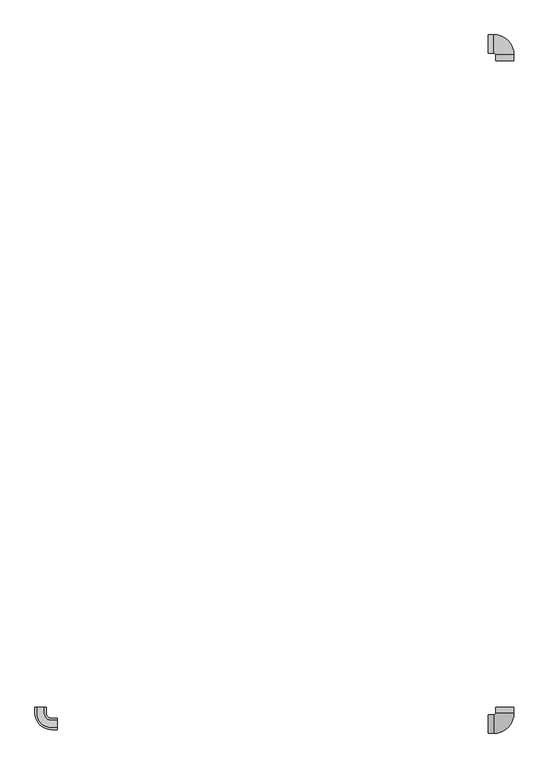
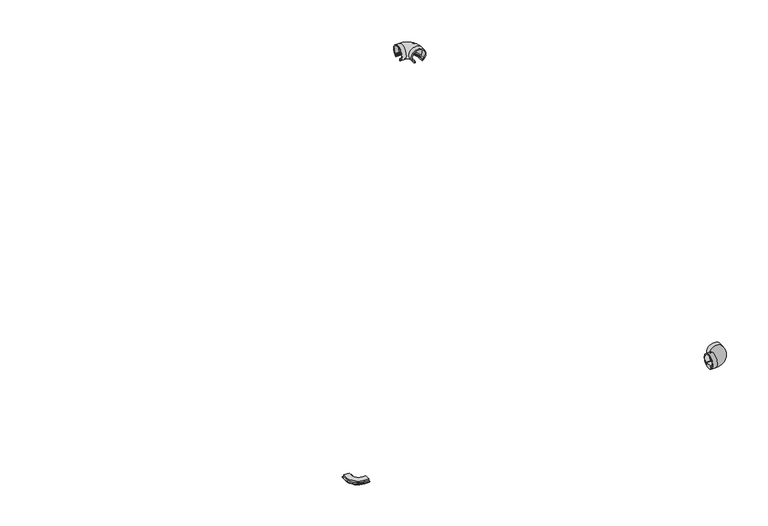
"""IFC4 building model written with IfcOpenShell, lengths in millimetres: light fixture geometry."""

from ifc_helpers import new_model, si_unit, point, frame, origin, place, context, project, spatial, polyline, circle_curve, ellipse_curve, trimmed, source, transform, mapped, element, save
from ifc_brep_helpers import plane_surface, cylinder_surface, revolved_surface, advanced_brep


def light_fixture_90e9eb32(model_context):
    return source(origin(), model_context, "Body", "AdvancedBrep", [
        advanced_brep(
        [(1284.2532014, 1700.5, 52.9333396), (1284.2532014, 1700.5, 57.259212), (1282.3354474, 1700.5, 57.259212), (1282.3354474, 1700.5, 55.8288843), (1280.3854474, 1700.5, 57.2440748), (1280.3854474, 1700.5, 59.244074), (1283.3354474, 1700.5, 59.244074), (1283.3354474, 1700.5, 60.744074), (1278.725222, 1700.5, 60.744074), (1313.2811808, 1700.5, 60.744074), (1308.6709554, 1700.5, 60.744074), (1308.6709554, 1700.5, 59.244074), (1311.6209554, 1700.5, 59.244074), (1311.6209554, 1700.5, 57.2440748), (1309.6709554, 1700.5, 55.8288843), (1309.6709554, 1700.5, 57.259212), (1307.7532014, 1700.5, 57.259212), (1307.7532014, 1700.5, 52.9333396), (1250.5032014, 1734.25, 52.9333396), (1250.5032014, 1757.75, 52.9333396), (1250.5032014, 1757.75, 57.259212), (1250.5032014, 1759.667754, 57.259212), (1250.5032014, 1759.667754, 55.8288843), (1250.5032014, 1761.617754, 57.2440748), (1250.5032014, 1761.617754, 59.244074), (1250.5032014, 1758.667754, 59.244074), (1250.5032014, 1758.667754, 60.744074), (1250.5032014, 1763.2779794, 60.744074), (1250.5032014, 1728.7220206, 60.744074), (1250.5032014, 1733.332246, 60.744074), (1250.5032014, 1733.332246, 59.244074), (1250.5032014, 1730.382246, 59.244074), (1250.5032014, 1730.382246, 57.2440748), (1250.5032014, 1732.332246, 55.8288843), (1250.5032014, 1732.332246, 57.259212), (1250.5032014, 1734.25, 57.259212), (1307.7532014, 1716.0, 52.9333396), (1284.2532014, 1716.0, 52.9333396), (1307.7532014, 1716.0, 57.259212), (1309.6709554, 1716.0, 57.259212), (1266.0032014, 1759.667754, 57.259212), (1266.0032014, 1757.75, 57.259212), (1309.6709554, 1716.0, 55.8288843), (1311.6209554, 1716.0, 57.2440748), (1311.6209554, 1716.0, 59.244074), (1308.6709554, 1716.0, 59.244074), (1266.0032014, 1758.667754, 59.244074), (1266.0032014, 1761.617754, 59.244074), (1308.6709554, 1716.0, 60.744074), (1313.2811808, 1716.0, 60.744074), (1266.0032014, 1763.2779794, 60.744074), (1266.0032014, 1758.667754, 60.744074), (1278.725222, 1716.0, 60.744074), (1283.3354474, 1716.0, 60.744074), (1266.0032014, 1733.332246, 60.744074), (1266.0032014, 1728.7220206, 60.744074), (1283.3354474, 1716.0, 59.244074), (1280.3854474, 1716.0, 59.244074), (1266.0032014, 1730.382246, 59.244074), (1266.0032014, 1733.332246, 59.244074), (1280.3854474, 1716.0, 57.2440748), (1282.3354474, 1716.0, 55.8288843), (1282.3354474, 1716.0, 57.259212), (1284.2532014, 1716.0, 57.259212), (1266.0032014, 1734.25, 57.259212), (1266.0032014, 1732.332246, 57.259212), (1266.0032014, 1734.25, 52.9333396), (1266.0032014, 1757.75, 52.9333396), (1266.0032014, 1759.667754, 55.8288843), (1266.0032014, 1761.617754, 57.2440748), (1266.0032014, 1730.382246, 57.2440748), (1266.0032014, 1732.332246, 55.8288843)],
        [
            (0, 1),
            (1, 2),
            (2, 3),
            (3, 4),
            (4, 5),
            (5, 6),
            (6, 7),
            (7, 8),
            (8, 9, circle_curve(frame((1296.0032014, 1700.5, 75.0), z_axis=(0.0, 1.0, 0.0), x_axis=(-1.0, 0.0, 0.0)), 22.4)),
            (9, 10),
            (10, 11),
            (11, 12),
            (12, 13),
            (13, 14),
            (14, 15),
            (15, 16),
            (16, 17),
            (17, 0, circle_curve(frame((1296.0032014, 1700.5, 75.0), z_axis=(0.0, -1.0, 0.0), x_axis=(-1.0, 0.0, 0.0)), 25.0)),
            (18, 19, circle_curve(frame((1250.5032014, 1746.0, 75.0), z_axis=(-1.0, 0.0, 0.0), x_axis=(0.0, -1.0, 0.0)), 25.0)),
            (19, 20),
            (20, 21),
            (21, 22),
            (22, 23),
            (23, 24),
            (24, 25),
            (25, 26),
            (26, 27),
            (27, 28, circle_curve(frame((1250.5032014, 1746.0, 75.0), z_axis=(1.0, 0.0, 0.0), x_axis=(0.0, -1.0, 0.0)), 22.4)),
            (28, 29),
            (29, 30),
            (30, 31),
            (31, 32),
            (32, 33),
            (33, 34),
            (34, 35),
            (35, 18),
            (17, 36),
            (36, 37, circle_curve(frame((1296.0032014, 1716.0, 75.0), z_axis=(0.0, -1.0, 0.0), x_axis=(-1.0, 0.0, 0.0)), 25.0)),
            (37, 0),
            (16, 38),
            (38, 36),
            (15, 39),
            (39, 40, circle_curve(frame((1266.0032014, 1716.0, 57.259212), z_axis=(0.0, 0.0, 1.0), x_axis=(1.0, 0.0, 0.0)), 43.667754)),
            (40, 21),
            (20, 41),
            (41, 38, circle_curve(frame((1266.0032014, 1716.0, 57.259212), z_axis=(0.0, 0.0, -1.0), x_axis=(1.0, 0.0, 0.0)), 41.75)),
            (14, 42),
            (42, 39),
            (13, 43),
            (43, 42),
            (12, 44),
            (44, 43),
            (11, 45),
            (45, 46, circle_curve(frame((1266.0032014, 1716.0, 59.244074), z_axis=(0.0, 0.0, 1.0), x_axis=(1.0, 0.0, 0.0)), 42.667754)),
            (46, 25),
            (24, 47),
            (47, 44, circle_curve(frame((1266.0032014, 1716.0, 59.244074), z_axis=(0.0, 0.0, -1.0), x_axis=(1.0, 0.0, 0.0)), 45.617754)),
            (10, 48),
            (48, 45),
            (9, 49),
            (49, 50, circle_curve(frame((1266.0032014, 1716.0, 60.744074), z_axis=(0.0, 0.0, 1.0), x_axis=(1.0, 0.0, 0.0)), 47.2779794)),
            (50, 27),
            (26, 51),
            (51, 48, circle_curve(frame((1266.0032014, 1716.0, 60.744074), z_axis=(0.0, 0.0, -1.0), x_axis=(1.0, 0.0, 0.0)), 42.667754)),
            (8, 52),
            (52, 49, circle_curve(frame((1296.0032014, 1716.0, 75.0), z_axis=(0.0, 1.0, 0.0), x_axis=(-1.0, 0.0, 0.0)), 22.4)),
            (7, 53),
            (53, 54, circle_curve(frame((1266.0032014, 1716.0, 60.744074), z_axis=(0.0, 0.0, 1.0), x_axis=(1.0, 0.0, 0.0)), 17.332246)),
            (54, 29),
            (28, 55),
            (55, 52, circle_curve(frame((1266.0032014, 1716.0, 60.744074), z_axis=(0.0, 0.0, -1.0), x_axis=(1.0, 0.0, 0.0)), 12.7220206)),
            (6, 56),
            (56, 53),
            (5, 57),
            (57, 58, circle_curve(frame((1266.0032014, 1716.0, 59.244074), z_axis=(0.0, 0.0, 1.0), x_axis=(1.0, 0.0, 0.0)), 14.382246)),
            (58, 31),
            (30, 59),
            (59, 56, circle_curve(frame((1266.0032014, 1716.0, 59.244074), z_axis=(0.0, 0.0, -1.0), x_axis=(1.0, 0.0, 0.0)), 17.332246)),
            (4, 60),
            (60, 57),
            (3, 61),
            (61, 60),
            (2, 62),
            (62, 61),
            (1, 63),
            (63, 64, circle_curve(frame((1266.0032014, 1716.0, 57.259212), z_axis=(0.0, 0.0, 1.0), x_axis=(1.0, 0.0, 0.0)), 18.25)),
            (64, 35),
            (34, 65),
            (65, 62, circle_curve(frame((1266.0032014, 1716.0, 57.259212), z_axis=(0.0, 0.0, -1.0), x_axis=(1.0, 0.0, 0.0)), 16.332246)),
            (37, 63),
            (66, 37, circle_curve(frame((1266.0032014, 1716.0, 52.9333396), z_axis=(0.0, 0.0, -1.0), x_axis=(1.0, 0.0, 0.0)), 18.25)),
            (36, 67, circle_curve(frame((1266.0032014, 1716.0, 52.9333396), z_axis=(0.0, 0.0, 1.0), x_axis=(1.0, 0.0, 0.0)), 41.75)),
            (67, 66, circle_curve(frame((1266.0032014, 1746.0, 75.0), z_axis=(1.0, 0.0, 0.0), x_axis=(0.0, -1.0, 0.0)), 25.0)),
            (41, 67),
            (42, 68, circle_curve(frame((1266.0032014, 1716.0, 55.8288843), z_axis=(0.0, 0.0, 1.0), x_axis=(1.0, 0.0, 0.0)), 43.667754)),
            (68, 40),
            (43, 69, circle_curve(frame((1266.0032014, 1716.0, 57.2440748), z_axis=(0.0, 0.0, 1.0), x_axis=(1.0, 0.0, 0.0)), 45.617754)),
            (69, 68),
            (47, 69),
            (51, 46),
            (55, 50, circle_curve(frame((1266.0032014, 1746.0, 75.0), z_axis=(-1.0, 0.0, 0.0), x_axis=(0.0, -1.0, 0.0)), 22.4)),
            (59, 54),
            (60, 70, circle_curve(frame((1266.0032014, 1716.0, 57.2440748), z_axis=(0.0, 0.0, 1.0), x_axis=(1.0, 0.0, 0.0)), 14.382246)),
            (70, 58),
            (61, 71, circle_curve(frame((1266.0032014, 1716.0, 55.8288843), z_axis=(0.0, 0.0, 1.0), x_axis=(1.0, 0.0, 0.0)), 16.332246)),
            (71, 70),
            (65, 71),
            (66, 64),
            (67, 19),
            (18, 66),
            (68, 22),
            (69, 23),
            (70, 32),
            (71, 33),
        ],
        [
            plane_surface(frame((1296.0032014, 1700.5, 50.0), z_axis=(0.0, -1.0, 0.0), x_axis=(0.0, 0.0, 1.0))),
            plane_surface(frame((1250.5032014, 1746.0, 50.0), z_axis=(-1.0, 0.0, 0.0), x_axis=(0.0, 0.0, 1.0))),
            cylinder_surface(frame((1296.0032014, 1700.5, 75.0), z_axis=(0.0, -1.0, 0.0), x_axis=(-1.0, 0.0, 0.0)), 25.0),
            plane_surface(frame((1307.7532014, 1700.5, 57.259212), z_axis=(-1.0, 0.0, 0.0), x_axis=(0.0, 1.0, 0.0))),
            plane_surface(frame((1309.6709554, 1700.5, 57.259212), z_axis=(0.0, 0.0, 1.0), x_axis=(0.0, 1.0, 0.0))),
            plane_surface(frame((1309.6709554, 1700.5, 55.8288843), z_axis=(1.0, 0.0, 0.0), x_axis=(0.0, 1.0, 0.0))),
            plane_surface(frame((1311.6209554, 1700.5, 57.2440748), z_axis=(-0.5873593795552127, 0.0, 0.809326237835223), x_axis=(0.0, 1.0, 0.0))),
            plane_surface(frame((1311.6209554, 1700.5, 59.244074), z_axis=(-1.0, 0.0, 0.0), x_axis=(0.0, 1.0, 0.0))),
            plane_surface(frame((1308.6709554, 1700.5, 59.244074), z_axis=(0.0, 0.0, -1.0), x_axis=(0.0, 1.0, 0.0))),
            plane_surface(frame((1308.6709554, 1700.5, 60.744074), z_axis=(-1.0, 0.0, 0.0), x_axis=(0.0, 1.0, 0.0))),
            plane_surface(frame((1313.2811808, 1700.5, 60.744074), z_axis=(0.0, 0.0, 1.0), x_axis=(0.0, 1.0, 0.0))),
            revolved_surface(polyline([(1273.6032014, 1716.0, 75.0), (1273.6032014, 1700.5, 75.0)]), (1296.0032014, 1700.5, 75.0), (0.0, 1.0, 0.0)),
            plane_surface(frame((1283.3354474, 1700.5, 60.744074), z_axis=(0.0, 0.0, 1.0), x_axis=(0.0, 1.0, 0.0))),
            plane_surface(frame((1283.3354474, 1700.5, 59.244074), z_axis=(1.0, 0.0, 0.0), x_axis=(0.0, 1.0, 0.0))),
            plane_surface(frame((1280.3854474, 1700.5, 59.244074), z_axis=(0.0, 0.0, -1.0), x_axis=(0.0, 1.0, 0.0))),
            plane_surface(frame((1280.3854474, 1700.5, 57.2440748), z_axis=(1.0, 0.0, 0.0), x_axis=(0.0, 1.0, 0.0))),
            plane_surface(frame((1282.3354474, 1700.5, 55.8288843), z_axis=(0.5873593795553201, 0.0, 0.8093262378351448), x_axis=(0.0, 1.0, 0.0))),
            plane_surface(frame((1282.3354474, 1700.5, 57.259212), z_axis=(-1.0, 0.0, 0.0), x_axis=(0.0, 1.0, 0.0))),
            plane_surface(frame((1284.2532014, 1700.5, 57.259212), z_axis=(0.0, 0.0, 1.0), x_axis=(0.0, 1.0, 0.0))),
            plane_surface(frame((1284.2532014, 1700.5, 52.9333396), z_axis=(1.0, 0.0, 0.0), x_axis=(0.0, 1.0, 0.0))),
            revolved_surface(trimmed(ellipse_curve(frame((1296.0032014, 1716.0, 75.0), z_axis=(0.0, -1.0, 0.0), x_axis=(-1.0, 0.0, 0.0)), 25.0, 25.0), [point((1307.7532014, 1716.0, 52.9333396))], [point((1284.2532014, 1716.0, 52.9333396))], True, "CARTESIAN"), (1266.0032014, 1716.0, 50.0), (0.0, 0.0, 1.0)),
            revolved_surface(polyline([(1307.7532014, 1716.0, 57.259212), (1307.7532014, 1716.0, 52.9333396)]), (1266.0032014, 1716.0, 50.0), (0.0, 0.0, 1.0)),
            cylinder_surface(frame((1266.0032014, 1716.0, 50.0), z_axis=(0.0, 0.0, 1.0), x_axis=(1.0, 0.0, 0.0)), 43.667754),
            revolved_surface(polyline([(1311.6209554, 1716.0, 57.2440748), (1309.6709554, 1716.0, 55.8288843)]), (1266.0032014, 1716.0, 50.0), (0.0, 0.0, 1.0)),
            revolved_surface(polyline([(1311.6209554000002, 1716.0, 59.244074), (1311.6209554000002, 1716.0, 57.2440748)]), (1266.0032014, 1716.0, 50.0), (0.0, 0.0, 1.0)),
            revolved_surface(polyline([(1308.6709554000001, 1716.0, 60.744074), (1308.6709554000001, 1716.0, 59.244074)]), (1266.0032014, 1716.0, 50.0), (0.0, 0.0, 1.0)),
            revolved_surface(trimmed(ellipse_curve(frame((1296.0032014, 1716.0, 75.0), z_axis=(0.0, 1.0, 0.0), x_axis=(-1.0, 0.0, 0.0)), 22.4, 22.4), [point((1278.725222, 1716.0, 60.744074))], [point((1313.2811808, 1716.0, 60.744074))], True, "CARTESIAN"), (1266.0032014, 1716.0, 50.0), (0.0, 0.0, 1.0)),
            cylinder_surface(frame((1266.0032014, 1716.0, 50.0), z_axis=(0.0, 0.0, 1.0), x_axis=(1.0, 0.0, 0.0)), 17.332246),
            cylinder_surface(frame((1266.0032014, 1716.0, 50.0), z_axis=(0.0, 0.0, 1.0), x_axis=(1.0, 0.0, 0.0)), 14.382246),
            revolved_surface(polyline([(1282.3354474, 1716.0, 55.8288843), (1280.3854474, 1716.0, 57.2440748)]), (1266.0032014, 1716.0, 50.0), (0.0, 0.0, 1.0)),
            revolved_surface(polyline([(1282.3354474, 1716.0, 57.259212), (1282.3354474, 1716.0, 55.8288843)]), (1266.0032014, 1716.0, 50.0), (0.0, 0.0, 1.0)),
            cylinder_surface(frame((1266.0032014, 1716.0, 50.0), z_axis=(0.0, 0.0, 1.0), x_axis=(1.0, 0.0, 0.0)), 18.25),
            cylinder_surface(frame((1266.0032014, 1746.0, 75.0), z_axis=(1.0, 0.0, 0.0), x_axis=(0.0, -1.0, 0.0)), 25.0),
            plane_surface(frame((1266.0032014, 1757.75, 57.259212), z_axis=(0.0, -1.0, 0.0), x_axis=(-1.0, 0.0, 0.0))),
            plane_surface(frame((1266.0032014, 1759.667754, 55.8288843), z_axis=(0.0, 1.0, 0.0), x_axis=(-1.0, 0.0, 0.0))),
            plane_surface(frame((1266.0032014, 1761.617754, 57.2440748), z_axis=(0.0, -0.5873593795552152, 0.8093262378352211), x_axis=(-1.0, 0.0, 0.0))),
            plane_surface(frame((1266.0032014, 1761.617754, 59.244074), z_axis=(0.0, -1.0, 0.0), x_axis=(-1.0, 0.0, 0.0))),
            plane_surface(frame((1266.0032014, 1758.667754, 60.744074), z_axis=(0.0, -1.0, 0.0), x_axis=(-1.0, 0.0, 0.0))),
            revolved_surface(polyline([(1250.5032014, 1723.6, 75.0), (1266.0032014, 1723.6, 75.0)]), (1266.0032014, 1746.0, 75.0), (-1.0, 0.0, 0.0)),
            plane_surface(frame((1266.0032014, 1733.332246, 59.244074), z_axis=(0.0, 1.0, 0.0), x_axis=(-1.0, 0.0, 0.0))),
            plane_surface(frame((1266.0032014, 1730.382246, 57.2440748), z_axis=(0.0, 1.0, 0.0), x_axis=(-1.0, 0.0, 0.0))),
            plane_surface(frame((1266.0032014, 1732.332246, 55.8288843), z_axis=(0.0, 0.5873593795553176, 0.8093262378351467), x_axis=(-1.0, 0.0, 0.0))),
            plane_surface(frame((1266.0032014, 1732.332246, 57.259212), z_axis=(0.0, -1.0, 0.0), x_axis=(-1.0, 0.0, 0.0))),
            plane_surface(frame((1266.0032014, 1734.25, 52.9333396), z_axis=(0.0, 1.0, 0.0), x_axis=(-1.0, 0.0, 0.0))),
        ],
        [
            (0, [[1, 2, 3, 4, 5, 6, 7, 8, 9, 10, 11, 12, 13, 14, 15, 16, 17, 18]]),
            (1, [[19, 20, 21, 22, 23, 24, 25, 26, 27, 28, 29, 30, 31, 32, 33, 34, 35, 36]]),
            (2, [[-18, 37, 38, 39]]),
            (3, [[-17, 40, 41, -37]]),
            (4, [[-16, 42, 43, 44, -21, 45, 46, -40]]),
            (5, [[-15, 47, 48, -42]]),
            (6, [[-14, 49, 50, -47]]),
            (7, [[-13, 51, 52, -49]]),
            (8, [[-12, 53, 54, 55, -25, 56, 57, -51]]),
            (9, [[-11, 58, 59, -53]]),
            (10, [[-10, 60, 61, 62, -27, 63, 64, -58]]),
            (11, [[-9, 65, 66, -60]]),
            (12, [[-8, 67, 68, 69, -29, 70, 71, -65]]),
            (13, [[-7, 72, 73, -67]]),
            (14, [[-6, 74, 75, 76, -31, 77, 78, -72]]),
            (15, [[-5, 79, 80, -74]]),
            (16, [[-4, 81, 82, -79]]),
            (17, [[-3, 83, 84, -81]]),
            (18, [[-2, 85, 86, 87, -35, 88, 89, -83]]),
            (19, [[-1, -39, 90, -85]]),
            (20, [[91, -38, 92, 93]]),
            (21, [[-92, -41, -46, 94]]),
            (22, [[-43, -48, 95, 96]]),
            (23, [[-95, -50, 97, 98]]),
            (24, [[-97, -52, -57, 99]]),
            (25, [[-54, -59, -64, 100]]),
            (26, [[-61, -66, -71, 101]]),
            (27, [[-68, -73, -78, 102]]),
            (28, [[-75, -80, 103, 104]]),
            (29, [[-103, -82, 105, 106]]),
            (30, [[-105, -84, -89, 107]]),
            (31, [[-86, -90, -91, 108]]),
            (32, [[-93, 109, -19, 110]]),
            (33, [[-94, -45, -20, -109]]),
            (34, [[-96, 111, -22, -44]]),
            (35, [[-98, 112, -23, -111]]),
            (36, [[-99, -56, -24, -112]]),
            (37, [[-100, -63, -26, -55]]),
            (38, [[-101, -70, -28, -62]]),
            (39, [[-102, -77, -30, -69]]),
            (40, [[-104, 113, -32, -76]]),
            (41, [[-106, 114, -33, -113]]),
            (42, [[-107, -88, -34, -114]]),
            (43, [[-108, -110, -36, -87]]),
        ],
    ),
        advanced_brep(
        [(1250.5032014, -126.75, 52.9333396), (1250.5032014, -126.75, 57.259212), (1250.5032014, -130.304087, 57.259212), (1250.5032014, -130.304087, 58.785971), (1250.5032014, -124.5062575, 58.785971), (1250.5032014, -124.5062575, 64.4273482), (1250.5032014, -105.4937425, 64.4273482), (1250.5032014, -105.4937425, 58.785971), (1250.5032014, -99.695913, 58.785971), (1250.5032014, -99.695913, 57.259212), (1250.5032014, -103.25, 57.259212), (1250.5032014, -103.25, 52.9333396), (1307.7532014, -69.5, 52.9333396), (1284.2532014, -69.5, 52.9333396), (1284.2532014, -69.5, 57.259212), (1280.6991144, -69.5, 57.259212), (1280.6991144, -69.5, 58.785971), (1286.4969439, -69.5, 58.785971), (1286.4969439, -69.5, 64.4273482), (1305.5094589, -69.5, 64.4273482), (1305.5094589, -69.5, 58.785971), (1311.3072884, -69.5, 58.785971), (1311.3072884, -69.5, 57.259212), (1307.7532014, -69.5, 57.259212), (1266.0032014, -103.25, 52.9333396), (1266.0032014, -126.75, 52.9333396), (1266.0032014, -103.25, 57.259212), (1266.0032014, -99.695913, 57.259212), (1280.6991144, -85.0, 57.259212), (1284.2532014, -85.0, 57.259212), (1266.0032014, -99.695913, 58.785971), (1266.0032014, -105.4937425, 58.785971), (1286.4969439, -85.0, 58.785971), (1280.6991144, -85.0, 58.785971), (1266.0032014, -105.4937425, 64.4273482), (1266.0032014, -124.5062575, 64.4273482), (1305.5094589, -85.0, 64.4273482), (1286.4969439, -85.0, 64.4273482), (1266.0032014, -124.5062575, 58.785971), (1266.0032014, -130.304087, 58.785971), (1311.3072884, -85.0, 58.785971), (1305.5094589, -85.0, 58.785971), (1266.0032014, -130.304087, 57.259212), (1266.0032014, -126.75, 57.259212), (1307.7532014, -85.0, 57.259212), (1311.3072884, -85.0, 57.259212), (1307.7532014, -85.0, 52.9333396), (1284.2532014, -85.0, 52.9333396)],
        [
            (0, 1),
            (1, 2),
            (2, 3),
            (3, 4),
            (4, 5),
            (5, 6),
            (6, 7),
            (7, 8),
            (8, 9),
            (9, 10),
            (10, 11),
            (11, 0, circle_curve(frame((1250.5032014, -115.0, 75.0), z_axis=(-1.0, 0.0, 0.0), x_axis=(0.0, 1.0, 0.0)), 25.0)),
            (12, 13, circle_curve(frame((1296.0032014, -69.5, 75.0), z_axis=(0.0, 1.0, 0.0), x_axis=(-1.0, 0.0, 0.0)), 25.0)),
            (13, 14),
            (14, 15),
            (15, 16),
            (16, 17),
            (17, 18),
            (18, 19),
            (19, 20),
            (20, 21),
            (21, 22),
            (22, 23),
            (23, 12),
            (11, 24),
            (24, 25, circle_curve(frame((1266.0032014, -115.0, 75.0), z_axis=(-1.0, 0.0, 0.0), x_axis=(0.0, 1.0, 0.0)), 25.0)),
            (25, 0),
            (10, 26),
            (26, 24),
            (9, 27),
            (27, 28, circle_curve(frame((1266.0032014, -85.0, 57.259212), z_axis=(0.0, 0.0, 1.0), x_axis=(0.0, -1.0, 0.0)), 14.695913)),
            (28, 15),
            (14, 29),
            (29, 26, circle_curve(frame((1266.0032014, -85.0, 57.259212), z_axis=(0.0, 0.0, -1.0), x_axis=(0.0, -1.0, 0.0)), 18.25)),
            (8, 30),
            (30, 27),
            (7, 31),
            (31, 32, circle_curve(frame((1266.0032014, -85.0, 58.785971), z_axis=(0.0, 0.0, 1.0), x_axis=(0.0, -1.0, 0.0)), 20.4937425)),
            (32, 17),
            (16, 33),
            (33, 30, circle_curve(frame((1266.0032014, -85.0, 58.785971), z_axis=(0.0, 0.0, -1.0), x_axis=(0.0, -1.0, 0.0)), 14.695913)),
            (6, 34),
            (34, 31),
            (5, 35),
            (35, 36, circle_curve(frame((1266.0032014, -85.0, 64.4273482), z_axis=(0.0, 0.0, 1.0), x_axis=(0.0, -1.0, 0.0)), 39.5062575)),
            (36, 19),
            (18, 37),
            (37, 34, circle_curve(frame((1266.0032014, -85.0, 64.4273482), z_axis=(0.0, 0.0, -1.0), x_axis=(0.0, -1.0, 0.0)), 20.4937425)),
            (4, 38),
            (38, 35),
            (3, 39),
            (39, 40, circle_curve(frame((1266.0032014, -85.0, 58.785971), z_axis=(0.0, 0.0, 1.0), x_axis=(0.0, -1.0, 0.0)), 45.304087)),
            (40, 21),
            (20, 41),
            (41, 38, circle_curve(frame((1266.0032014, -85.0, 58.785971), z_axis=(0.0, 0.0, -1.0), x_axis=(0.0, -1.0, 0.0)), 39.5062575)),
            (2, 42),
            (42, 39),
            (1, 43),
            (43, 44, circle_curve(frame((1266.0032014, -85.0, 57.259212), z_axis=(0.0, 0.0, 1.0), x_axis=(0.0, -1.0, 0.0)), 41.75)),
            (44, 23),
            (22, 45),
            (45, 42, circle_curve(frame((1266.0032014, -85.0, 57.259212), z_axis=(0.0, 0.0, -1.0), x_axis=(0.0, -1.0, 0.0)), 45.304087)),
            (25, 43),
            (46, 25, circle_curve(frame((1266.0032014, -85.0, 52.9333396), z_axis=(0.0, 0.0, -1.0), x_axis=(0.0, -1.0, 0.0)), 41.75)),
            (24, 47, circle_curve(frame((1266.0032014, -85.0, 52.9333396), z_axis=(0.0, 0.0, 1.0), x_axis=(0.0, -1.0, 0.0)), 18.25)),
            (47, 46, circle_curve(frame((1296.0032014, -85.0, 75.0), z_axis=(0.0, -1.0, 0.0), x_axis=(-1.0, 0.0, 0.0)), 25.0)),
            (29, 47),
            (33, 28),
            (37, 32),
            (41, 36),
            (45, 40),
            (46, 44),
            (47, 13),
            (12, 46),
        ],
        [
            plane_surface(frame((1250.5032014, -115.0, 50.0), z_axis=(-1.0, 0.0, 0.0), x_axis=(0.0, 0.0, 1.0))),
            plane_surface(frame((1296.0032014, -69.5, 50.0), z_axis=(0.0, 1.0, 0.0), x_axis=(0.0, 0.0, 1.0))),
            cylinder_surface(frame((1250.5032014, -115.0, 75.0), z_axis=(-1.0, 0.0, 0.0), x_axis=(0.0, 1.0, 0.0)), 25.0),
            plane_surface(frame((1250.5032014, -103.25, 57.259212), z_axis=(0.0, 1.0, 0.0), x_axis=(1.0, 0.0, 0.0))),
            plane_surface(frame((1250.5032014, -99.695913, 57.259212), z_axis=(0.0, 0.0, -1.0), x_axis=(1.0, 0.0, 0.0))),
            plane_surface(frame((1250.5032014, -99.695913, 58.785971), z_axis=(0.0, 1.0, 0.0), x_axis=(1.0, 0.0, 0.0))),
            plane_surface(frame((1250.5032014, -105.4937425, 58.785971), z_axis=(0.0, 0.0, 1.0), x_axis=(1.0, 0.0, 0.0))),
            plane_surface(frame((1250.5032014, -105.4937425, 64.4273482), z_axis=(0.0, 1.0, 0.0), x_axis=(1.0, 0.0, 0.0))),
            plane_surface(frame((1250.5032014, -124.5062575, 64.4273482), z_axis=(0.0, 0.0, 1.0), x_axis=(1.0, 0.0, 0.0))),
            plane_surface(frame((1250.5032014, -124.5062575, 58.785971), z_axis=(0.0, -1.0, 0.0), x_axis=(1.0, 0.0, 0.0))),
            plane_surface(frame((1250.5032014, -130.304087, 58.785971), z_axis=(0.0, 0.0, 1.0), x_axis=(1.0, 0.0, 0.0))),
            plane_surface(frame((1250.5032014, -130.304087, 57.259212), z_axis=(0.0, -1.0, 0.0), x_axis=(1.0, 0.0, 0.0))),
            plane_surface(frame((1250.5032014, -126.75, 57.259212), z_axis=(0.0, 0.0, -1.0), x_axis=(1.0, 0.0, 0.0))),
            plane_surface(frame((1250.5032014, -126.75, 52.9333396), z_axis=(0.0, -1.0, 0.0), x_axis=(1.0, 0.0, 0.0))),
            revolved_surface(trimmed(ellipse_curve(frame((1266.0032014, -115.0, 75.0), z_axis=(-1.0, 0.0, 0.0), x_axis=(0.0, 1.0, 0.0)), 25.0, 25.0), [point((1266.0032014, -103.25, 52.9333396))], [point((1266.0032014, -126.75, 52.9333396))], True, "CARTESIAN"), (1266.0032014, -85.0, 50.0), (0.0, 0.0, 1.0)),
            revolved_surface(polyline([(1266.0032014, -103.25, 57.259212), (1266.0032014, -103.25, 52.9333396)]), (1266.0032014, -85.0, 50.0), (0.0, 0.0, 1.0)),
            revolved_surface(polyline([(1266.0032014, -99.695913, 58.785971), (1266.0032014, -99.695913, 57.259212)]), (1266.0032014, -85.0, 50.0), (0.0, 0.0, 1.0)),
            revolved_surface(polyline([(1266.0032014, -105.4937425, 64.4273482), (1266.0032014, -105.4937425, 58.785971)]), (1266.0032014, -85.0, 50.0), (0.0, 0.0, 1.0)),
            cylinder_surface(frame((1266.0032014, -85.0, 50.0), z_axis=(0.0, 0.0, 1.0), x_axis=(0.0, -1.0, 0.0)), 39.5062575),
            cylinder_surface(frame((1266.0032014, -85.0, 50.0), z_axis=(0.0, 0.0, 1.0), x_axis=(0.0, -1.0, 0.0)), 45.304087),
            cylinder_surface(frame((1266.0032014, -85.0, 50.0), z_axis=(0.0, 0.0, 1.0), x_axis=(0.0, -1.0, 0.0)), 41.75),
            cylinder_surface(frame((1296.0032014, -85.0, 75.0), z_axis=(0.0, -1.0, 0.0), x_axis=(-1.0, 0.0, 0.0)), 25.0),
            plane_surface(frame((1284.2532014, -85.0, 57.259212), z_axis=(-1.0, 0.0, 0.0), x_axis=(0.0, 1.0, 0.0))),
            plane_surface(frame((1280.6991144, -85.0, 58.785971), z_axis=(-1.0, 0.0, 0.0), x_axis=(0.0, 1.0, 0.0))),
            plane_surface(frame((1286.4969439, -85.0, 64.4273482), z_axis=(-1.0, 0.0, 0.0), x_axis=(0.0, 1.0, 0.0))),
            plane_surface(frame((1305.5094589, -85.0, 58.785971), z_axis=(1.0, 0.0, 0.0), x_axis=(0.0, 1.0, 0.0))),
            plane_surface(frame((1311.3072884, -85.0, 57.259212), z_axis=(1.0, 0.0, 0.0), x_axis=(0.0, 1.0, 0.0))),
            plane_surface(frame((1307.7532014, -85.0, 52.9333396), z_axis=(1.0, 0.0, 0.0), x_axis=(0.0, 1.0, 0.0))),
        ],
        [
            (0, [[1, 2, 3, 4, 5, 6, 7, 8, 9, 10, 11, 12]]),
            (1, [[13, 14, 15, 16, 17, 18, 19, 20, 21, 22, 23, 24]]),
            (2, [[-12, 25, 26, 27]]),
            (3, [[-11, 28, 29, -25]]),
            (4, [[-10, 30, 31, 32, -15, 33, 34, -28]]),
            (5, [[-9, 35, 36, -30]]),
            (6, [[-8, 37, 38, 39, -17, 40, 41, -35]]),
            (7, [[-7, 42, 43, -37]]),
            (8, [[-6, 44, 45, 46, -19, 47, 48, -42]]),
            (9, [[-5, 49, 50, -44]]),
            (10, [[-4, 51, 52, 53, -21, 54, 55, -49]]),
            (11, [[-3, 56, 57, -51]]),
            (12, [[-2, 58, 59, 60, -23, 61, 62, -56]]),
            (13, [[-1, -27, 63, -58]]),
            (14, [[64, -26, 65, 66]]),
            (15, [[-65, -29, -34, 67]]),
            (16, [[-31, -36, -41, 68]]),
            (17, [[-38, -43, -48, 69]]),
            (18, [[-45, -50, -55, 70]]),
            (19, [[-52, -57, -62, 71]]),
            (20, [[-59, -63, -64, 72]]),
            (21, [[-66, 73, -13, 74]]),
            (22, [[-67, -33, -14, -73]]),
            (23, [[-68, -40, -16, -32]]),
            (24, [[-69, -47, -18, -39]]),
            (25, [[-70, -54, -20, -46]]),
            (26, [[-71, -61, -22, -53]]),
            (27, [[-72, -74, -24, -60]]),
        ],
    ),
        advanced_brep(
        [(1250.5032014, -103.25, 52.9333396), (1250.5032014, -103.25, 57.259212), (1250.5032014, -101.332246, 57.259212), (1250.5032014, -101.332246, 55.8288843), (1250.5032014, -99.382246, 57.2440748), (1250.5032014, -99.382246, 59.244074), (1250.5032014, -102.332246, 59.244074), (1250.5032014, -102.332246, 60.744074), (1250.5032014, -97.7220206, 60.744074), (1250.5032014, -132.2779794, 60.744074), (1250.5032014, -127.667754, 60.744074), (1250.5032014, -127.667754, 59.244074), (1250.5032014, -130.617754, 59.244074), (1250.5032014, -130.617754, 57.2440748), (1250.5032014, -128.667754, 55.8288843), (1250.5032014, -128.667754, 57.259212), (1250.5032014, -126.75, 57.259212), (1250.5032014, -126.75, 52.9333396), (1284.2532014, -69.5, 52.9333396), (1307.7532014, -69.5, 52.9333396), (1307.7532014, -69.5, 57.259212), (1309.6709554, -69.5, 57.259212), (1309.6709554, -69.5, 55.8288843), (1311.6209554, -69.5, 57.2440748), (1311.6209554, -69.5, 59.244074), (1308.6709554, -69.5, 59.244074), (1308.6709554, -69.5, 60.744074), (1313.2811808, -69.5, 60.744074), (1278.725222, -69.5, 60.744074), (1283.3354474, -69.5, 60.744074), (1283.3354474, -69.5, 59.244074), (1280.3854474, -69.5, 59.244074), (1280.3854474, -69.5, 57.2440748), (1282.3354474, -69.5, 55.8288843), (1282.3354474, -69.5, 57.259212), (1284.2532014, -69.5, 57.259212), (1266.0032014, -126.75, 52.9333396), (1266.0032014, -103.25, 52.9333396), (1266.0032014, -126.75, 57.259212), (1266.0032014, -128.667754, 57.259212), (1309.6709554, -85.0, 57.259212), (1307.7532014, -85.0, 57.259212), (1266.0032014, -128.667754, 55.8288843), (1266.0032014, -130.617754, 57.2440748), (1266.0032014, -130.617754, 59.244074), (1266.0032014, -127.667754, 59.244074), (1308.6709554, -85.0, 59.244074), (1311.6209554, -85.0, 59.244074), (1266.0032014, -127.667754, 60.744074), (1266.0032014, -132.2779794, 60.744074), (1313.2811808, -85.0, 60.744074), (1308.6709554, -85.0, 60.744074), (1266.0032014, -97.7220206, 60.744074), (1266.0032014, -102.332246, 60.744074), (1283.3354474, -85.0, 60.744074), (1278.725222, -85.0, 60.744074), (1266.0032014, -102.332246, 59.244074), (1266.0032014, -99.382246, 59.244074), (1280.3854474, -85.0, 59.244074), (1283.3354474, -85.0, 59.244074), (1266.0032014, -99.382246, 57.2440748), (1266.0032014, -101.332246, 55.8288843), (1266.0032014, -101.332246, 57.259212), (1266.0032014, -103.25, 57.259212), (1284.2532014, -85.0, 57.259212), (1282.3354474, -85.0, 57.259212), (1284.2532014, -85.0, 52.9333396), (1307.7532014, -85.0, 52.9333396), (1309.6709554, -85.0, 55.8288843), (1311.6209554, -85.0, 57.2440748), (1280.3854474, -85.0, 57.2440748), (1282.3354474, -85.0, 55.8288843)],
        [
            (0, 1),
            (1, 2),
            (2, 3),
            (3, 4),
            (4, 5),
            (5, 6),
            (6, 7),
            (7, 8),
            (8, 9, circle_curve(frame((1250.5032014, -115.0, 75.0), z_axis=(1.0, 0.0, 0.0), x_axis=(0.0, 1.0, 0.0)), 22.4)),
            (9, 10),
            (10, 11),
            (11, 12),
            (12, 13),
            (13, 14),
            (14, 15),
            (15, 16),
            (16, 17),
            (17, 0, circle_curve(frame((1250.5032014, -115.0, 75.0), z_axis=(-1.0, 0.0, 0.0), x_axis=(0.0, 1.0, 0.0)), 25.0)),
            (18, 19, circle_curve(frame((1296.0032014, -69.5, 75.0), z_axis=(0.0, 1.0, 0.0), x_axis=(-1.0, 0.0, 0.0)), 25.0)),
            (19, 20),
            (20, 21),
            (21, 22),
            (22, 23),
            (23, 24),
            (24, 25),
            (25, 26),
            (26, 27),
            (27, 28, circle_curve(frame((1296.0032014, -69.5, 75.0), z_axis=(0.0, -1.0, 0.0), x_axis=(-1.0, 0.0, 0.0)), 22.4)),
            (28, 29),
            (29, 30),
            (30, 31),
            (31, 32),
            (32, 33),
            (33, 34),
            (34, 35),
            (35, 18),
            (17, 36),
            (36, 37, circle_curve(frame((1266.0032014, -115.0, 75.0), z_axis=(-1.0, 0.0, 0.0), x_axis=(0.0, 1.0, 0.0)), 25.0)),
            (37, 0),
            (16, 38),
            (38, 36),
            (15, 39),
            (39, 40, circle_curve(frame((1266.0032014, -85.0, 57.259212), z_axis=(0.0, 0.0, 1.0), x_axis=(0.0, -1.0, 0.0)), 43.667754)),
            (40, 21),
            (20, 41),
            (41, 38, circle_curve(frame((1266.0032014, -85.0, 57.259212), z_axis=(0.0, 0.0, -1.0), x_axis=(0.0, -1.0, 0.0)), 41.75)),
            (14, 42),
            (42, 39),
            (13, 43),
            (43, 42),
            (12, 44),
            (44, 43),
            (11, 45),
            (45, 46, circle_curve(frame((1266.0032014, -85.0, 59.244074), z_axis=(0.0, 0.0, 1.0), x_axis=(0.0, -1.0, 0.0)), 42.667754)),
            (46, 25),
            (24, 47),
            (47, 44, circle_curve(frame((1266.0032014, -85.0, 59.244074), z_axis=(0.0, 0.0, -1.0), x_axis=(0.0, -1.0, 0.0)), 45.617754)),
            (10, 48),
            (48, 45),
            (9, 49),
            (49, 50, circle_curve(frame((1266.0032014, -85.0, 60.744074), z_axis=(0.0, 0.0, 1.0), x_axis=(0.0, -1.0, 0.0)), 47.2779794)),
            (50, 27),
            (26, 51),
            (51, 48, circle_curve(frame((1266.0032014, -85.0, 60.744074), z_axis=(0.0, 0.0, -1.0), x_axis=(0.0, -1.0, 0.0)), 42.667754)),
            (8, 52),
            (52, 49, circle_curve(frame((1266.0032014, -115.0, 75.0), z_axis=(1.0, 0.0, 0.0), x_axis=(0.0, 1.0, 0.0)), 22.4)),
            (7, 53),
            (53, 54, circle_curve(frame((1266.0032014, -85.0, 60.744074), z_axis=(0.0, 0.0, 1.0), x_axis=(0.0, -1.0, 0.0)), 17.332246)),
            (54, 29),
            (28, 55),
            (55, 52, circle_curve(frame((1266.0032014, -85.0, 60.744074), z_axis=(0.0, 0.0, -1.0), x_axis=(0.0, -1.0, 0.0)), 12.7220206)),
            (6, 56),
            (56, 53),
            (5, 57),
            (57, 58, circle_curve(frame((1266.0032014, -85.0, 59.244074), z_axis=(0.0, 0.0, 1.0), x_axis=(0.0, -1.0, 0.0)), 14.382246)),
            (58, 31),
            (30, 59),
            (59, 56, circle_curve(frame((1266.0032014, -85.0, 59.244074), z_axis=(0.0, 0.0, -1.0), x_axis=(0.0, -1.0, 0.0)), 17.332246)),
            (4, 60),
            (60, 57),
            (3, 61),
            (61, 60),
            (2, 62),
            (62, 61),
            (1, 63),
            (63, 64, circle_curve(frame((1266.0032014, -85.0, 57.259212), z_axis=(0.0, 0.0, 1.0), x_axis=(0.0, -1.0, 0.0)), 18.25)),
            (64, 35),
            (34, 65),
            (65, 62, circle_curve(frame((1266.0032014, -85.0, 57.259212), z_axis=(0.0, 0.0, -1.0), x_axis=(0.0, -1.0, 0.0)), 16.332246)),
            (37, 63),
            (66, 37, circle_curve(frame((1266.0032014, -85.0, 52.9333396), z_axis=(0.0, 0.0, -1.0), x_axis=(0.0, -1.0, 0.0)), 18.25)),
            (36, 67, circle_curve(frame((1266.0032014, -85.0, 52.9333396), z_axis=(0.0, 0.0, 1.0), x_axis=(0.0, -1.0, 0.0)), 41.75)),
            (67, 66, circle_curve(frame((1296.0032014, -85.0, 75.0), z_axis=(0.0, -1.0, 0.0), x_axis=(-1.0, 0.0, 0.0)), 25.0)),
            (41, 67),
            (42, 68, circle_curve(frame((1266.0032014, -85.0, 55.8288843), z_axis=(0.0, 0.0, 1.0), x_axis=(0.0, -1.0, 0.0)), 43.667754)),
            (68, 40),
            (43, 69, circle_curve(frame((1266.0032014, -85.0, 57.2440748), z_axis=(0.0, 0.0, 1.0), x_axis=(0.0, -1.0, 0.0)), 45.617754)),
            (69, 68),
            (47, 69),
            (51, 46),
            (55, 50, circle_curve(frame((1296.0032014, -85.0, 75.0), z_axis=(0.0, 1.0, 0.0), x_axis=(-1.0, 0.0, 0.0)), 22.4)),
            (59, 54),
            (60, 70, circle_curve(frame((1266.0032014, -85.0, 57.2440748), z_axis=(0.0, 0.0, 1.0), x_axis=(0.0, -1.0, 0.0)), 14.382246)),
            (70, 58),
            (61, 71, circle_curve(frame((1266.0032014, -85.0, 55.8288843), z_axis=(0.0, 0.0, 1.0), x_axis=(0.0, -1.0, 0.0)), 16.332246)),
            (71, 70),
            (65, 71),
            (66, 64),
            (67, 19),
            (18, 66),
            (68, 22),
            (69, 23),
            (70, 32),
            (71, 33),
        ],
        [
            plane_surface(frame((1250.5032014, -115.0, 50.0), z_axis=(-1.0, 0.0, 0.0), x_axis=(0.0, 0.0, 1.0))),
            plane_surface(frame((1296.0032014, -69.5, 50.0), z_axis=(0.0, 1.0, 0.0), x_axis=(0.0, 0.0, 1.0))),
            cylinder_surface(frame((1250.5032014, -115.0, 75.0), z_axis=(-1.0, 0.0, 0.0), x_axis=(0.0, 1.0, 0.0)), 25.0),
            plane_surface(frame((1250.5032014, -126.75, 57.259212), z_axis=(0.0, 1.0, 0.0), x_axis=(1.0, 0.0, 0.0))),
            plane_surface(frame((1250.5032014, -128.667754, 57.259212), z_axis=(0.0, 0.0, 1.0), x_axis=(1.0, 0.0, 0.0))),
            plane_surface(frame((1250.5032014, -128.667754, 55.8288843), z_axis=(0.0, -1.0, 0.0), x_axis=(1.0, 0.0, 0.0))),
            plane_surface(frame((1250.5032014, -130.617754, 57.2440748), z_axis=(0.0, 0.5873593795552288, 0.8093262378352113), x_axis=(1.0, 0.0, 0.0))),
            plane_surface(frame((1250.5032014, -130.617754, 59.244074), z_axis=(0.0, 1.0, 0.0), x_axis=(1.0, 0.0, 0.0))),
            plane_surface(frame((1250.5032014, -127.667754, 59.244074), z_axis=(0.0, 0.0, -1.0), x_axis=(1.0, 0.0, 0.0))),
            plane_surface(frame((1250.5032014, -127.667754, 60.744074), z_axis=(0.0, 1.0, 0.0), x_axis=(1.0, 0.0, 0.0))),
            plane_surface(frame((1250.5032014, -132.2779794, 60.744074), z_axis=(0.0, 0.0, 1.0), x_axis=(1.0, 0.0, 0.0))),
            revolved_surface(polyline([(1266.0032014, -92.6, 75.0), (1250.5032014, -92.6, 75.0)]), (1250.5032014, -115.0, 75.0), (1.0, 0.0, 0.0)),
            plane_surface(frame((1250.5032014, -102.332246, 60.744074), z_axis=(0.0, 0.0, 1.0), x_axis=(1.0, 0.0, 0.0))),
            plane_surface(frame((1250.5032014, -102.332246, 59.244074), z_axis=(0.0, -1.0, 0.0), x_axis=(1.0, 0.0, 0.0))),
            plane_surface(frame((1250.5032014, -99.382246, 59.244074), z_axis=(0.0, 0.0, -1.0), x_axis=(1.0, 0.0, 0.0))),
            plane_surface(frame((1250.5032014, -99.382246, 57.2440748), z_axis=(0.0, -1.0, 0.0), x_axis=(1.0, 0.0, 0.0))),
            plane_surface(frame((1250.5032014, -101.332246, 55.8288843), z_axis=(0.0, -0.5873593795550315, 0.8093262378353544), x_axis=(1.0, 0.0, 0.0))),
            plane_surface(frame((1250.5032014, -101.332246, 57.259212), z_axis=(0.0, 1.0, 0.0), x_axis=(1.0, 0.0, 0.0))),
            plane_surface(frame((1250.5032014, -103.25, 57.259212), z_axis=(0.0, 0.0, 1.0), x_axis=(1.0, 0.0, 0.0))),
            plane_surface(frame((1250.5032014, -103.25, 52.9333396), z_axis=(0.0, -1.0, 0.0), x_axis=(1.0, 0.0, 0.0))),
            revolved_surface(trimmed(ellipse_curve(frame((1266.0032014, -115.0, 75.0), z_axis=(-1.0, 0.0, 0.0), x_axis=(0.0, 1.0, 0.0)), 25.0, 25.0), [point((1266.0032014, -126.75, 52.9333396))], [point((1266.0032014, -103.25, 52.9333396))], True, "CARTESIAN"), (1266.0032014, -85.0, 50.0), (0.0, 0.0, 1.0)),
            revolved_surface(polyline([(1266.0032014, -126.75, 57.259212), (1266.0032014, -126.75, 52.9333396)]), (1266.0032014, -85.0, 50.0), (0.0, 0.0, 1.0)),
            cylinder_surface(frame((1266.0032014, -85.0, 50.0), z_axis=(0.0, 0.0, 1.0), x_axis=(0.0, -1.0, 0.0)), 43.667754),
            revolved_surface(polyline([(1266.0032014, -130.617754, 57.2440748), (1266.0032014, -128.667754, 55.8288843)]), (1266.0032014, -85.0, 50.0), (0.0, 0.0, 1.0)),
            revolved_surface(polyline([(1266.0032014, -130.617754, 59.244074), (1266.0032014, -130.617754, 57.2440748)]), (1266.0032014, -85.0, 50.0), (0.0, 0.0, 1.0)),
            revolved_surface(polyline([(1266.0032014, -127.667754, 60.744074), (1266.0032014, -127.667754, 59.244074)]), (1266.0032014, -85.0, 50.0), (0.0, 0.0, 1.0)),
            revolved_surface(trimmed(ellipse_curve(frame((1266.0032014, -115.0, 75.0), z_axis=(1.0, 0.0, 0.0), x_axis=(0.0, 1.0, 0.0)), 22.4, 22.4), [point((1266.0032014, -97.7220206, 60.744074))], [point((1266.0032014, -132.2779794, 60.744074))], True, "CARTESIAN"), (1266.0032014, -85.0, 50.0), (0.0, 0.0, 1.0)),
            cylinder_surface(frame((1266.0032014, -85.0, 50.0), z_axis=(0.0, 0.0, 1.0), x_axis=(0.0, -1.0, 0.0)), 17.332246),
            cylinder_surface(frame((1266.0032014, -85.0, 50.0), z_axis=(0.0, 0.0, 1.0), x_axis=(0.0, -1.0, 0.0)), 14.382246),
            revolved_surface(polyline([(1266.0032014, -101.332246, 55.8288843), (1266.0032014, -99.382246, 57.2440748)]), (1266.0032014, -85.0, 50.0), (0.0, 0.0, 1.0)),
            revolved_surface(polyline([(1266.0032014, -101.332246, 57.259212), (1266.0032014, -101.332246, 55.8288843)]), (1266.0032014, -85.0, 50.0), (0.0, 0.0, 1.0)),
            cylinder_surface(frame((1266.0032014, -85.0, 50.0), z_axis=(0.0, 0.0, 1.0), x_axis=(0.0, -1.0, 0.0)), 18.25),
            cylinder_surface(frame((1296.0032014, -85.0, 75.0), z_axis=(0.0, -1.0, 0.0), x_axis=(-1.0, 0.0, 0.0)), 25.0),
            plane_surface(frame((1307.7532014, -85.0, 57.259212), z_axis=(-1.0, 0.0, 0.0), x_axis=(0.0, 1.0, 0.0))),
            plane_surface(frame((1309.6709554, -85.0, 55.8288843), z_axis=(1.0, 0.0, 0.0), x_axis=(0.0, 1.0, 0.0))),
            plane_surface(frame((1311.6209554, -85.0, 57.2440748), z_axis=(-0.5873593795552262, 0.0, 0.8093262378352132), x_axis=(0.0, 1.0, 0.0))),
            plane_surface(frame((1311.6209554, -85.0, 59.244074), z_axis=(-1.0, 0.0, 0.0), x_axis=(0.0, 1.0, 0.0))),
            plane_surface(frame((1308.6709554, -85.0, 60.744074), z_axis=(-1.0, 0.0, 0.0), x_axis=(0.0, 1.0, 0.0))),
            revolved_surface(polyline([(1273.6032014, -69.5, 75.0), (1273.6032014, -85.0, 75.0)]), (1296.0032014, -85.0, 75.0), (0.0, 1.0, 0.0)),
            plane_surface(frame((1283.3354474, -85.0, 59.244074), z_axis=(1.0, 0.0, 0.0), x_axis=(0.0, 1.0, 0.0))),
            plane_surface(frame((1280.3854474, -85.0, 57.2440748), z_axis=(1.0, 0.0, 0.0), x_axis=(0.0, 1.0, 0.0))),
            plane_surface(frame((1282.3354474, -85.0, 55.8288843), z_axis=(0.587359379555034, 0.0, 0.8093262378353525), x_axis=(0.0, 1.0, 0.0))),
            plane_surface(frame((1282.3354474, -85.0, 57.259212), z_axis=(-1.0, 0.0, 0.0), x_axis=(0.0, 1.0, 0.0))),
            plane_surface(frame((1284.2532014, -85.0, 52.9333396), z_axis=(1.0, 0.0, 0.0), x_axis=(0.0, 1.0, 0.0))),
        ],
        [
            (0, [[1, 2, 3, 4, 5, 6, 7, 8, 9, 10, 11, 12, 13, 14, 15, 16, 17, 18]]),
            (1, [[19, 20, 21, 22, 23, 24, 25, 26, 27, 28, 29, 30, 31, 32, 33, 34, 35, 36]]),
            (2, [[-18, 37, 38, 39]]),
            (3, [[-17, 40, 41, -37]]),
            (4, [[-16, 42, 43, 44, -21, 45, 46, -40]]),
            (5, [[-15, 47, 48, -42]]),
            (6, [[-14, 49, 50, -47]]),
            (7, [[-13, 51, 52, -49]]),
            (8, [[-12, 53, 54, 55, -25, 56, 57, -51]]),
            (9, [[-11, 58, 59, -53]]),
            (10, [[-10, 60, 61, 62, -27, 63, 64, -58]]),
            (11, [[-9, 65, 66, -60]]),
            (12, [[-8, 67, 68, 69, -29, 70, 71, -65]]),
            (13, [[-7, 72, 73, -67]]),
            (14, [[-6, 74, 75, 76, -31, 77, 78, -72]]),
            (15, [[-5, 79, 80, -74]]),
            (16, [[-4, 81, 82, -79]]),
            (17, [[-3, 83, 84, -81]]),
            (18, [[-2, 85, 86, 87, -35, 88, 89, -83]]),
            (19, [[-1, -39, 90, -85]]),
            (20, [[91, -38, 92, 93]]),
            (21, [[-92, -41, -46, 94]]),
            (22, [[-43, -48, 95, 96]]),
            (23, [[-95, -50, 97, 98]]),
            (24, [[-97, -52, -57, 99]]),
            (25, [[-54, -59, -64, 100]]),
            (26, [[-61, -66, -71, 101]]),
            (27, [[-68, -73, -78, 102]]),
            (28, [[-75, -80, 103, 104]]),
            (29, [[-103, -82, 105, 106]]),
            (30, [[-105, -84, -89, 107]]),
            (31, [[-86, -90, -91, 108]]),
            (32, [[-93, 109, -19, 110]]),
            (33, [[-94, -45, -20, -109]]),
            (34, [[-96, 111, -22, -44]]),
            (35, [[-98, 112, -23, -111]]),
            (36, [[-99, -56, -24, -112]]),
            (37, [[-100, -63, -26, -55]]),
            (38, [[-101, -70, -28, -62]]),
            (39, [[-102, -77, -30, -69]]),
            (40, [[-104, 113, -32, -76]]),
            (41, [[-106, 114, -33, -113]]),
            (42, [[-107, -88, -34, -114]]),
            (43, [[-108, -110, -36, -87]]),
        ],
    ),
        advanced_brep(
        [(13.25, -69.5, 52.9333396), (13.25, -69.5, 57.259212), (9.695913, -69.5, 57.259212), (9.695913, -69.5, 58.785971), (15.4937425, -69.5, 58.785971), (15.4937425, -69.5, 64.4273482), (34.5062575, -69.5, 64.4273482), (34.5062575, -69.5, 58.785971), (40.304087, -69.5, 58.785971), (40.304087, -69.5, 57.259212), (36.75, -69.5, 57.259212), (36.75, -69.5, 52.9333396), (70.5, -126.75, 52.9333396), (70.5, -103.25, 52.9333396), (70.5, -103.25, 57.259212), (70.5, -99.695913, 57.259212), (70.5, -99.695913, 58.785971), (70.5, -105.4937425, 58.785971), (70.5, -105.4937425, 64.4273482), (70.5, -124.5062575, 64.4273482), (70.5, -124.5062575, 58.785971), (70.5, -130.304087, 58.785971), (70.5, -130.304087, 57.259212), (70.5, -126.75, 57.259212), (36.75, -85.0, 52.9333396), (13.25, -85.0, 52.9333396), (36.75, -85.0, 57.259212), (40.304087, -85.0, 57.259212), (55.0, -99.695913, 57.259212), (55.0, -103.25, 57.259212), (40.304087, -85.0, 58.785971), (34.5062575, -85.0, 58.785971), (55.0, -105.4937425, 58.785971), (55.0, -99.695913, 58.785971), (34.5062575, -85.0, 64.4273482), (15.4937425, -85.0, 64.4273482), (55.0, -124.5062575, 64.4273482), (55.0, -105.4937425, 64.4273482), (15.4937425, -85.0, 58.785971), (9.695913, -85.0, 58.785971), (55.0, -130.304087, 58.785971), (55.0, -124.5062575, 58.785971), (9.695913, -85.0, 57.259212), (13.25, -85.0, 57.259212), (55.0, -126.75, 57.259212), (55.0, -130.304087, 57.259212), (55.0, -126.75, 52.9333396), (55.0, -103.25, 52.9333396)],
        [
            (0, 1),
            (1, 2),
            (2, 3),
            (3, 4),
            (4, 5),
            (5, 6),
            (6, 7),
            (7, 8),
            (8, 9),
            (9, 10),
            (10, 11),
            (11, 0, circle_curve(frame((25.0, -69.5, 75.0), z_axis=(0.0, 1.0, 0.0), x_axis=(1.0, 0.0, 0.0)), 25.0)),
            (12, 13, circle_curve(frame((70.5, -115.0, 75.0), z_axis=(1.0, 0.0, 0.0), x_axis=(0.0, 1.0, 0.0)), 25.0)),
            (13, 14),
            (14, 15),
            (15, 16),
            (16, 17),
            (17, 18),
            (18, 19),
            (19, 20),
            (20, 21),
            (21, 22),
            (22, 23),
            (23, 12),
            (11, 24),
            (24, 25, circle_curve(frame((25.0, -85.0, 75.0), z_axis=(0.0, 1.0, 0.0), x_axis=(1.0, 0.0, 0.0)), 25.0)),
            (25, 0),
            (10, 26),
            (26, 24),
            (9, 27),
            (27, 28, circle_curve(frame((55.0, -85.0, 57.259212), z_axis=(0.0, 0.0, 1.0), x_axis=(-1.0, 0.0, 0.0)), 14.695913)),
            (28, 15),
            (14, 29),
            (29, 26, circle_curve(frame((55.0, -85.0, 57.259212), z_axis=(0.0, 0.0, -1.0), x_axis=(-1.0, 0.0, 0.0)), 18.25)),
            (8, 30),
            (30, 27),
            (7, 31),
            (31, 32, circle_curve(frame((55.0, -85.0, 58.785971), z_axis=(0.0, 0.0, 1.0), x_axis=(-1.0, 0.0, 0.0)), 20.4937425)),
            (32, 17),
            (16, 33),
            (33, 30, circle_curve(frame((55.0, -85.0, 58.785971), z_axis=(0.0, 0.0, -1.0), x_axis=(-1.0, 0.0, 0.0)), 14.695913)),
            (6, 34),
            (34, 31),
            (5, 35),
            (35, 36, circle_curve(frame((55.0, -85.0, 64.4273482), z_axis=(0.0, 0.0, 1.0), x_axis=(-1.0, 0.0, 0.0)), 39.5062575)),
            (36, 19),
            (18, 37),
            (37, 34, circle_curve(frame((55.0, -85.0, 64.4273482), z_axis=(0.0, 0.0, -1.0), x_axis=(-1.0, 0.0, 0.0)), 20.4937425)),
            (4, 38),
            (38, 35),
            (3, 39),
            (39, 40, circle_curve(frame((55.0, -85.0, 58.785971), z_axis=(0.0, 0.0, 1.0), x_axis=(-1.0, 0.0, 0.0)), 45.304087)),
            (40, 21),
            (20, 41),
            (41, 38, circle_curve(frame((55.0, -85.0, 58.785971), z_axis=(0.0, 0.0, -1.0), x_axis=(-1.0, 0.0, 0.0)), 39.5062575)),
            (2, 42),
            (42, 39),
            (1, 43),
            (43, 44, circle_curve(frame((55.0, -85.0, 57.259212), z_axis=(0.0, 0.0, 1.0), x_axis=(-1.0, 0.0, 0.0)), 41.75)),
            (44, 23),
            (22, 45),
            (45, 42, circle_curve(frame((55.0, -85.0, 57.259212), z_axis=(0.0, 0.0, -1.0), x_axis=(-1.0, 0.0, 0.0)), 45.304087)),
            (25, 43),
            (46, 25, circle_curve(frame((55.0, -85.0, 52.9333396), z_axis=(0.0, 0.0, -1.0), x_axis=(-1.0, 0.0, 0.0)), 41.75)),
            (24, 47, circle_curve(frame((55.0, -85.0, 52.9333396), z_axis=(0.0, 0.0, 1.0), x_axis=(-1.0, 0.0, 0.0)), 18.25)),
            (47, 46, circle_curve(frame((55.0, -115.0, 75.0), z_axis=(-1.0, 0.0, 0.0), x_axis=(0.0, 1.0, 0.0)), 25.0)),
            (29, 47),
            (33, 28),
            (37, 32),
            (41, 36),
            (45, 40),
            (46, 44),
            (47, 13),
            (12, 46),
        ],
        [
            plane_surface(frame((25.0, -69.5, 50.0), z_axis=(0.0, 1.0, 0.0), x_axis=(0.0, 0.0, 1.0))),
            plane_surface(frame((70.5, -115.0, 50.0), z_axis=(1.0, 0.0, 0.0), x_axis=(0.0, 0.0, 1.0))),
            cylinder_surface(frame((25.0, -69.5, 75.0), z_axis=(0.0, 1.0, 0.0), x_axis=(1.0, 0.0, 0.0)), 25.0),
            plane_surface(frame((36.75, -69.5, 57.259212), z_axis=(1.0, 0.0, 0.0), x_axis=(0.0, -1.0, 0.0))),
            plane_surface(frame((40.304087, -69.5, 57.259212), z_axis=(0.0, 0.0, -1.0), x_axis=(0.0, -1.0, 0.0))),
            plane_surface(frame((40.304087, -69.5, 58.785971), z_axis=(1.0, 0.0, 0.0), x_axis=(0.0, -1.0, 0.0))),
            plane_surface(frame((34.5062575, -69.5, 58.785971), z_axis=(0.0, 0.0, 1.0), x_axis=(0.0, -1.0, 0.0))),
            plane_surface(frame((34.5062575, -69.5, 64.4273482), z_axis=(1.0, 0.0, 0.0), x_axis=(0.0, -1.0, 0.0))),
            plane_surface(frame((15.4937425, -69.5, 64.4273482), z_axis=(0.0, 0.0, 1.0), x_axis=(0.0, -1.0, 0.0))),
            plane_surface(frame((15.4937425, -69.5, 58.785971), z_axis=(-1.0, 0.0, 0.0), x_axis=(0.0, -1.0, 0.0))),
            plane_surface(frame((9.695913, -69.5, 58.785971), z_axis=(0.0, 0.0, 1.0), x_axis=(0.0, -1.0, 0.0))),
            plane_surface(frame((9.695913, -69.5, 57.259212), z_axis=(-1.0, 0.0, 0.0), x_axis=(0.0, -1.0, 0.0))),
            plane_surface(frame((13.25, -69.5, 57.259212), z_axis=(0.0, 0.0, -1.0), x_axis=(0.0, -1.0, 0.0))),
            plane_surface(frame((13.25, -69.5, 52.9333396), z_axis=(-1.0, 0.0, 0.0), x_axis=(0.0, -1.0, 0.0))),
            revolved_surface(trimmed(ellipse_curve(frame((25.0, -85.0, 75.0), z_axis=(0.0, 1.0, 0.0), x_axis=(1.0, 0.0, 0.0)), 25.0, 25.0), [point((36.75, -85.0, 52.9333396))], [point((13.25, -85.0, 52.9333396))], True, "CARTESIAN"), (55.0, -85.0, 50.0), (0.0, 0.0, 1.0)),
            revolved_surface(polyline([(36.75, -85.0, 57.259212), (36.75, -85.0, 52.9333396)]), (55.0, -85.0, 50.0), (0.0, 0.0, 1.0)),
            revolved_surface(polyline([(40.304087, -85.0, 58.785971), (40.304087, -85.0, 57.259212)]), (55.0, -85.0, 50.0), (0.0, 0.0, 1.0)),
            revolved_surface(polyline([(34.506257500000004, -85.0, 64.4273482), (34.506257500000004, -85.0, 58.785971)]), (55.0, -85.0, 50.0), (0.0, 0.0, 1.0)),
            cylinder_surface(frame((55.0, -85.0, 50.0), z_axis=(0.0, 0.0, 1.0), x_axis=(-1.0, 0.0, 0.0)), 39.5062575),
            cylinder_surface(frame((55.0, -85.0, 50.0), z_axis=(0.0, 0.0, 1.0), x_axis=(-1.0, 0.0, 0.0)), 45.304087),
            cylinder_surface(frame((55.0, -85.0, 50.0), z_axis=(0.0, 0.0, 1.0), x_axis=(-1.0, 0.0, 0.0)), 41.75),
            cylinder_surface(frame((55.0, -115.0, 75.0), z_axis=(-1.0, 0.0, 0.0), x_axis=(0.0, 1.0, 0.0)), 25.0),
            plane_surface(frame((55.0, -103.25, 57.259212), z_axis=(0.0, 1.0, 0.0), x_axis=(1.0, 0.0, 0.0))),
            plane_surface(frame((55.0, -99.695913, 58.785971), z_axis=(0.0, 1.0, 0.0), x_axis=(1.0, 0.0, 0.0))),
            plane_surface(frame((55.0, -105.4937425, 64.4273482), z_axis=(0.0, 1.0, 0.0), x_axis=(1.0, 0.0, 0.0))),
            plane_surface(frame((55.0, -124.5062575, 58.785971), z_axis=(0.0, -1.0, 0.0), x_axis=(1.0, 0.0, 0.0))),
            plane_surface(frame((55.0, -130.304087, 57.259212), z_axis=(0.0, -1.0, 0.0), x_axis=(1.0, 0.0, 0.0))),
            plane_surface(frame((55.0, -126.75, 52.9333396), z_axis=(0.0, -1.0, 0.0), x_axis=(1.0, 0.0, 0.0))),
        ],
        [
            (0, [[1, 2, 3, 4, 5, 6, 7, 8, 9, 10, 11, 12]]),
            (1, [[13, 14, 15, 16, 17, 18, 19, 20, 21, 22, 23, 24]]),
            (2, [[-12, 25, 26, 27]]),
            (3, [[-11, 28, 29, -25]]),
            (4, [[-10, 30, 31, 32, -15, 33, 34, -28]]),
            (5, [[-9, 35, 36, -30]]),
            (6, [[-8, 37, 38, 39, -17, 40, 41, -35]]),
            (7, [[-7, 42, 43, -37]]),
            (8, [[-6, 44, 45, 46, -19, 47, 48, -42]]),
            (9, [[-5, 49, 50, -44]]),
            (10, [[-4, 51, 52, 53, -21, 54, 55, -49]]),
            (11, [[-3, 56, 57, -51]]),
            (12, [[-2, 58, 59, 60, -23, 61, 62, -56]]),
            (13, [[-1, -27, 63, -58]]),
            (14, [[64, -26, 65, 66]]),
            (15, [[-65, -29, -34, 67]]),
            (16, [[-31, -36, -41, 68]]),
            (17, [[-38, -43, -48, 69]]),
            (18, [[-45, -50, -55, 70]]),
            (19, [[-52, -57, -62, 71]]),
            (20, [[-59, -63, -64, 72]]),
            (21, [[-66, 73, -13, 74]]),
            (22, [[-67, -33, -14, -73]]),
            (23, [[-68, -40, -16, -32]]),
            (24, [[-69, -47, -18, -39]]),
            (25, [[-70, -54, -20, -46]]),
            (26, [[-71, -61, -22, -53]]),
            (27, [[-72, -74, -24, -60]]),
        ],
    ),
    ])


if __name__ == "__main__":
    model = new_model("IFC4")
    model_context = context("Model", 3, world=origin())
    ifc_project = project(units=[si_unit("LENGTHUNIT", "METRE", prefix="MILLI")], contexts=[model_context])
    site = spatial("IfcSite", under=ifc_project)
    building = spatial("IfcBuilding", under=site)
    placement = place(None, origin())
    light_fixture_shape = light_fixture_90e9eb32(model_context)
    element("IfcLightFixture", 1, at=placement, inside=building, context=model_context, shape_type="MappedRepresentation", body=[
        mapped(light_fixture_shape, transform((0.0, 0.0, 0.0), x_axis=(1.0, 0.0, 0.0), y_axis=(0.0, 1.0, 0.0), z_axis=(0.0, 0.0, 1.0))),
    ])
    save(model, "model.ifc")
